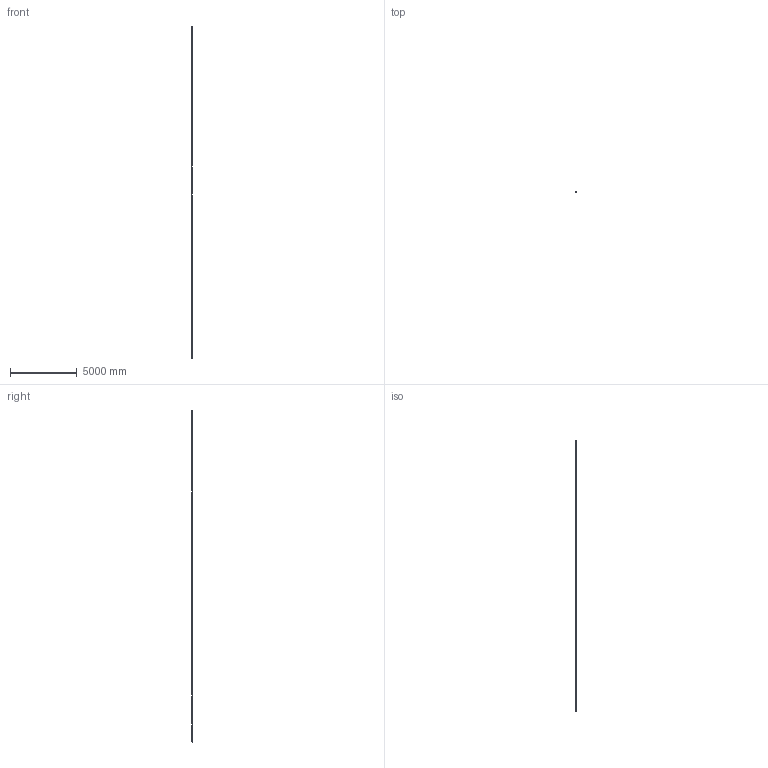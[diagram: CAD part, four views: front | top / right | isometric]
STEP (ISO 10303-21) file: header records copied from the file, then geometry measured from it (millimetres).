
FILE_DESCRIPTION(('Creo Elements/Direct Modeling STEP Export'),'2;1');
FILE_NAME('F-246.stp','2011-11-18T12:04:55',(''),(''),'Creo Elements/Direct Modeling STEP processor for AP214 (Solid Model)','Creo Elements/Direct Modeling 17.0C 05-Feb-2011 (C) Parametric Technology GmbH','');
FILE_SCHEMA(('AUTOMOTIVE_DESIGN { 1 0 10303 214 1 1 1 1 }'));
Length unit declared in the file: millimetre
Products named in the file (5): Modulos_intermedio_(FL-14); CABEZA; Modulo_der_(22E); Modulo_izq_(K); F-246
Assembly tree (18 placements, depth 2):
  F-246
    Modulos_intermedio_(FL-14)  x15
    Modulo_izq_(K)
    Modulo_der_(22E)
    CABEZA
Bounding box: 51.5 x 87.95 x 24935.6 mm (x, y, z)
Volume: 63462140.9 mm3; surface area: 7272965.5 mm2
Topology: 19 solids, 161 shells, 10159 faces, 28396 edges, 18099 vertices
Faces by surface type: cylinder 4475, plane 3746, cone 800, torus 528, bspline 440, extrusion 160, sphere 10
Entity records: 107622 total; most frequent: CARTESIAN_POINT 34233, ORIENTED_EDGE 15792, DIRECTION 13568, EDGE_CURVE 7890, VERTEX_POINT 5105, AXIS2_PLACEMENT_3D 4783, VECTOR 4002, LINE 3982
